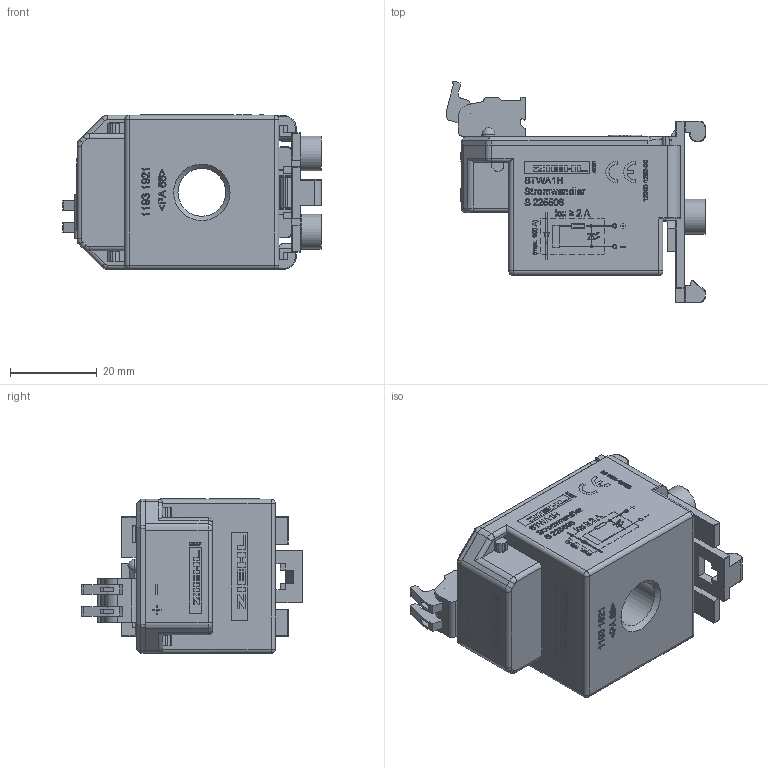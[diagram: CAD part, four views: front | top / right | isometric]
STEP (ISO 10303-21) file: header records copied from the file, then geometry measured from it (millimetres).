
FILE_DESCRIPTION (( 'STEP AP214' ), '1' );
FILE_NAME ('12000-1902-00_STWA1H_3D.STEP', '2014-09-18T09:15:43', ( '' ), ( '' ), 'SwSTEP 2.0', 'SolidWorks 2014', '' );
FILE_SCHEMA (( 'AUTOMOTIVE_DESIGN' ));
Length unit declared in the file: millimetre
Products named in the file (8): H-Wandler_ +-_ 3D; 12000-1202-00 H; ASP045 2-polig; 31177102 Stiftleiste 2-polig; 1193 1980_3D_Halter; 1193 1970_3D_Deckel; H_3D_Unterteil mit LED; 12000-1902-00_STWA1H_3D
Assembly tree (7 placements, depth 2):
  12000-1902-00_STWA1H_3D
    H_3D_Unterteil mit LED
    1193 1970_3D_Deckel
    1193 1980_3D_Halter
    31177102 Stiftleiste 2-polig
    ASP045 2-polig
    12000-1202-00 H
    H-Wandler_ +-_ 3D
Bounding box: 59.64 x 50.98 x 35.67 mm (x, y, z)
Volume: 18311 mm3; surface area: 26258.9 mm2
Topology: 117 solids, 124 shells, 2119 faces, 5292 edges, 3426 vertices
Faces by surface type: plane 1463, bspline 306, cylinder 272, torus 48, sphere 25, cone 5
Full cylindrical faces by diameter (mm): 0.05 x1, 0.532 x2, 1.6 x4, 3 x1, 4.4 x2, 6.5 x1, 7.5 x1, 8 x2, 11 x2, 12 x1, 15 x1
Entity records: 74431 total; most frequent: CARTESIAN_POINT 23705, ORIENTED_EDGE 10408, DIRECTION 8688, EDGE_CURVE 5220, VECTOR 4006, LINE 4006, VERTEX_POINT 3412, AXIS2_PLACEMENT_3D 2341
